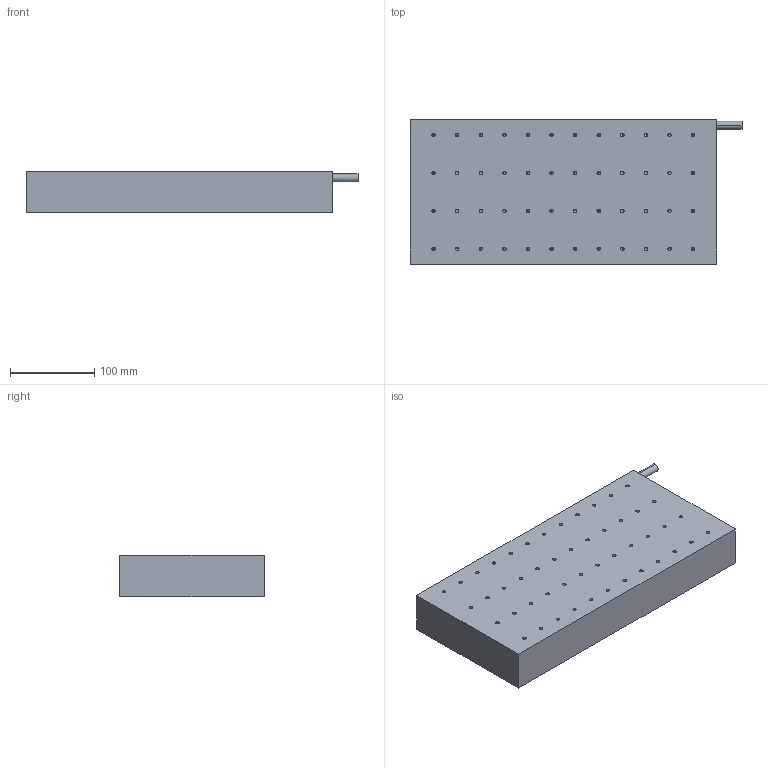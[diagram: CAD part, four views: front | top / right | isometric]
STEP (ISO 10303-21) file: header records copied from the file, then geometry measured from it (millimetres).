
FILE_DESCRIPTION (( 'STEP AP214' ), '1' );
FILE_NAME ('WKM150A雄赽.STEP', '2025-09-05T12:08:44', ( '' ), ( '' ), 'SwSTEP 2.0', 'SolidWorks 2016', '' );
FILE_SCHEMA (( 'AUTOMOTIVE_DESIGN' ));
Length unit declared in the file: millimetre
Products named in the file (1): WKM150A雄赽
Bounding box: 394 x 171 x 49.3 mm (x, y, z)
Volume: 3066818.4 mm3; surface area: 181728.6 mm2
Topology: 1 solids, 1 shells, 201 faces, 498 edges, 252 vertices
Faces by surface type: cylinder 98, cone 96, plane 7
Entity records: 6318 total; most frequent: DIRECTION 1002, CARTESIAN_POINT 856, ORIENTED_EDGE 804, EDGE_CURVE 402, AXIS2_PLACEMENT_3D 398, VERTEX_POINT 252, EDGE_LOOP 250, LINE 206
